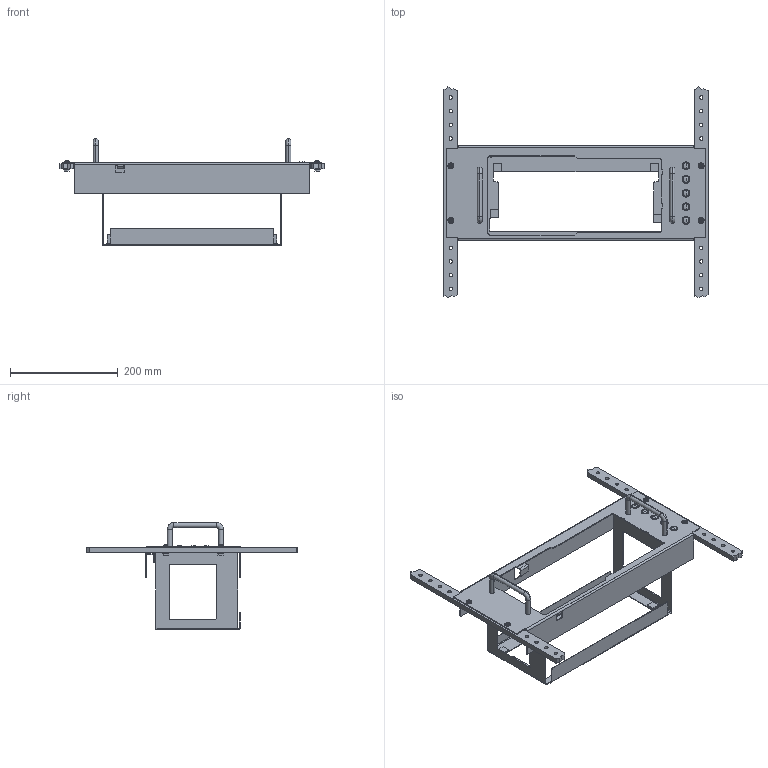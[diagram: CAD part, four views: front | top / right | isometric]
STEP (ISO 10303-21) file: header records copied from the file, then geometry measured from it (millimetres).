
FILE_DESCRIPTION((''),'2;1');
FILE_NAME('RACKMNT3100_TBL_ASM','2018-09-11T',('chrisco'),(''),'CREO PARAMETRIC BY PTC INC, 2016050','CREO PARAMETRIC BY PTC INC, 2016050','');
FILE_SCHEMA(('CONFIG_CONTROL_DESIGN'));
Products named in the file (12): FRAME_RM3100FRT_TBL; FACEPLATE_RM3100REAR_TBL; CUSHION_RACKMOUNT_TBL; FACEPLATE_RM3100REAR_TBL_ASM; HANDLE_RM3100_TBL; WASHER_SPLIT_TBL; 211088600; RACK_SAMPLE_TBL; WASHER_FINISHING_TBL; 210045800_DUP_TBL; PLUG_CAP_TBL; RACKMNT3100_TBL_ASM
Assembly tree (40 placements, depth 3):
  RACKMNT3100_TBL_ASM
    FRAME_RM3100FRT_TBL
    FACEPLATE_RM3100REAR_TBL_ASM
      FACEPLATE_RM3100REAR_TBL
      CUSHION_RACKMOUNT_TBL  x8
    HANDLE_RM3100_TBL  x2
    WASHER_SPLIT_TBL  x4
    211088600  x8
    RACK_SAMPLE_TBL  x2
    WASHER_FINISHING_TBL  x4
    210045800_DUP_TBL  x4
    PLUG_CAP_TBL  x5
Bounding box: 490.91 x 392.95 x 198.77 mm (x, y, z)
Volume: 469058 mm3; surface area: 403331.4 mm2
Topology: 39 solids, 39 shells, 1123 faces, 2804 edges, 1775 vertices
Faces by surface type: plane 628, cylinder 385, torus 56, bspline 28, sphere 10, revolution 8, cone 8
Entity records: 19244 total; most frequent: CARTESIAN_POINT 4244, DIRECTION 2784, ORIENTED_EDGE 2576, EDGE_CURVE 1288, AXIS2_PLACEMENT_3D 991, VERTEX_POINT 813, VECTOR 800, LINE 800
